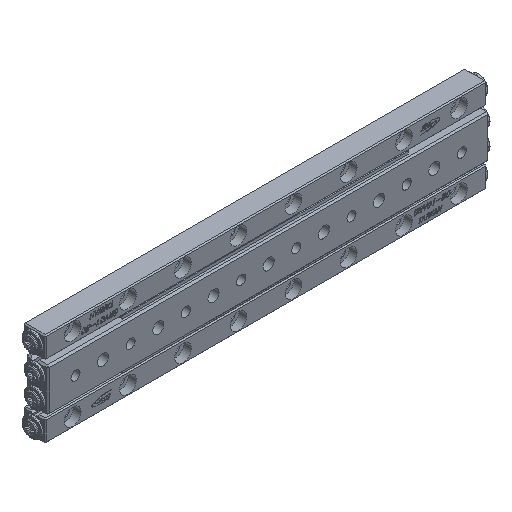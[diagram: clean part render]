
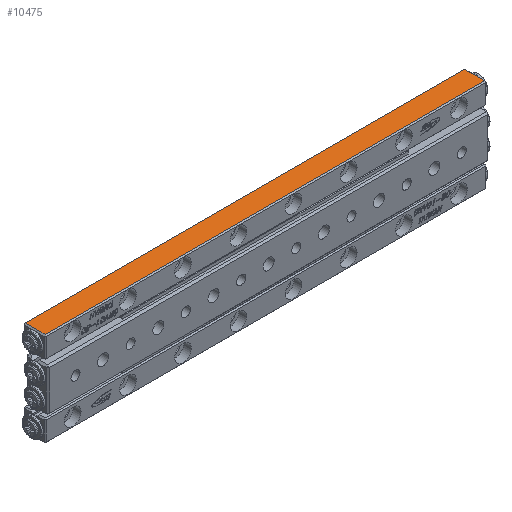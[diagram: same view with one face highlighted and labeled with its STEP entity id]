
A CAD part, isometric view. The second image highlights one B-rep face of the part: STEP entity #10475.
In plain terms, the highlighted planar face has unit normal (0, 0, 1) as drawn and (0, 0, -1) by its records, which use the part's own axes.
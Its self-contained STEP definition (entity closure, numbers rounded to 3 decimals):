
#416 = ORIENTED_EDGE ( 'NONE', *, *, #19606, .T. ) ;
#814 = EDGE_CURVE ( 'NONE', #1135, #25168, #25795, .T. ) ;
#1135 = VERTEX_POINT ( 'NONE', #14424 ) ;
#2228 = FACE_OUTER_BOUND ( 'NONE', #29116, .T. ) ;
#2780 = DIRECTION ( 'NONE',  ( 1., 0., 0. ) ) ;
#3519 = DIRECTION ( 'NONE',  ( 0., 1., 0. ) ) ;
#6087 = ORIENTED_EDGE ( 'NONE', *, *, #814, .T. ) ;
#7504 = AXIS2_PLACEMENT_3D ( 'NONE', #39550, #8476, #28460 ) ;
#8476 = DIRECTION ( 'NONE',  ( 0., 0., -1. ) ) ;
#9070 = CARTESIAN_POINT ( 'NONE',  ( -39.8, 1.8, 0. ) ) ;
#10475 = ADVANCED_FACE ( 'NONE', ( #2228 ), #15791, .T. ) ;
#13577 = VERTEX_POINT ( 'NONE', #9070 ) ;
#14424 = CARTESIAN_POINT ( 'NONE',  ( 39.8, 1.8, 0. ) ) ;
#15791 = PLANE ( 'NONE',  #7504 ) ;
#17909 = VECTOR ( 'NONE', #3519, 1000. ) ;
#18473 = CARTESIAN_POINT ( 'NONE',  ( 39.8, -1.8, 0. ) ) ;
#18670 = VECTOR ( 'NONE', #43058, 1000. ) ;
#19606 = EDGE_CURVE ( 'NONE', #13577, #1135, #23418, .T. ) ;
#20605 = VECTOR ( 'NONE', #35353, 1000. ) ;
#23078 = CARTESIAN_POINT ( 'NONE',  ( -40., -1.8, 0. ) ) ;
#23092 = CARTESIAN_POINT ( 'NONE',  ( -39.8, 2., 0. ) ) ;
#23418 = LINE ( 'NONE', #40716, #37184 ) ;
#25168 = VERTEX_POINT ( 'NONE', #18473 ) ;
#25795 = LINE ( 'NONE', #36017, #20605 ) ;
#26204 = LINE ( 'NONE', #23078, #18670 ) ;
#27472 = VERTEX_POINT ( 'NONE', #33407 ) ;
#28460 = DIRECTION ( 'NONE',  ( 0., 1., 0. ) ) ;
#29116 = EDGE_LOOP ( 'NONE', ( #416, #6087, #31789, #35363 ) ) ;
#31630 = EDGE_CURVE ( 'NONE', #25168, #27472, #26204, .T. ) ;
#31789 = ORIENTED_EDGE ( 'NONE', *, *, #31630, .T. ) ;
#33407 = CARTESIAN_POINT ( 'NONE',  ( -39.8, -1.8, 0. ) ) ;
#35353 = DIRECTION ( 'NONE',  ( 0., -1., 0. ) ) ;
#35363 = ORIENTED_EDGE ( 'NONE', *, *, #36758, .T. ) ;
#36017 = CARTESIAN_POINT ( 'NONE',  ( 39.8, -2., 0. ) ) ;
#36758 = EDGE_CURVE ( 'NONE', #27472, #13577, #43072, .T. ) ;
#37184 = VECTOR ( 'NONE', #2780, 1000. ) ;
#39550 = CARTESIAN_POINT ( 'NONE',  ( -40., -2., 0. ) ) ;
#40716 = CARTESIAN_POINT ( 'NONE',  ( -40., 1.8, 0. ) ) ;
#43058 = DIRECTION ( 'NONE',  ( -1., 0., 0. ) ) ;
#43072 = LINE ( 'NONE', #23092, #17909 ) ;
